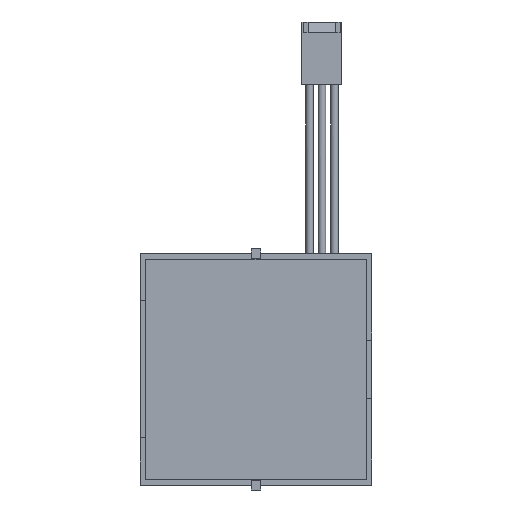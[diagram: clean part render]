
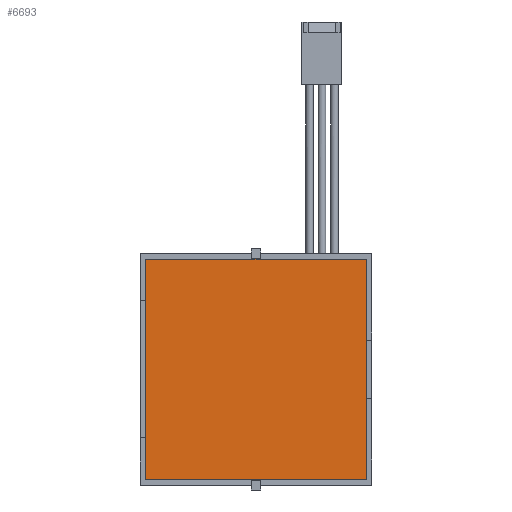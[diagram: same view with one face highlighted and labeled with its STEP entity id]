
A CAD part, front view. The second image highlights one B-rep face of the part: STEP entity #6693.
In plain terms, the highlighted planar face has unit normal (0, -1, 0).
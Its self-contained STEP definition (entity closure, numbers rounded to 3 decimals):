
#162 = LINE ( 'NONE', #3584, #5460 ) ;
#1276 = CARTESIAN_POINT ( 'NONE',  ( 22.5, -1.654, 22.5 ) ) ;
#1929 = ORIENTED_EDGE ( 'NONE', *, *, #8875, .F. ) ;
#2955 = VERTEX_POINT ( 'NONE', #16314 ) ;
#3078 = ORIENTED_EDGE ( 'NONE', *, *, #15837, .F. ) ;
#3112 = DIRECTION ( 'NONE',  ( 0., 0., 1. ) ) ;
#3557 = VECTOR ( 'NONE', #11029, 1000. ) ;
#3584 = CARTESIAN_POINT ( 'NONE',  ( 22.5, -1.654, -22.5 ) ) ;
#3923 = VECTOR ( 'NONE', #3112, 1000. ) ;
#4267 = LINE ( 'NONE', #6183, #13198 ) ;
#5460 = VECTOR ( 'NONE', #10123, 1000. ) ;
#6183 = CARTESIAN_POINT ( 'NONE',  ( 22.5, -1.654, -22.5 ) ) ;
#6693 = ADVANCED_FACE ( 'NONE', ( #10368 ), #12213, .T. ) ;
#6740 = EDGE_CURVE ( 'NONE', #18095, #16966, #4267, .T. ) ;
#7375 = LINE ( 'NONE', #1276, #3557 ) ;
#7633 = ORIENTED_EDGE ( 'NONE', *, *, #6740, .F. ) ;
#8875 = EDGE_CURVE ( 'NONE', #16966, #2955, #162, .T. ) ;
#9683 = EDGE_LOOP ( 'NONE', ( #7633, #16220, #3078, #1929 ) ) ;
#10123 = DIRECTION ( 'NONE',  ( -1., 0., 0. ) ) ;
#10368 = FACE_OUTER_BOUND ( 'NONE', #9683, .T. ) ;
#11029 = DIRECTION ( 'NONE',  ( 1., 0., 0. ) ) ;
#11073 = CARTESIAN_POINT ( 'NONE',  ( 22.5, -1.654, 22.5 ) ) ;
#12191 = CARTESIAN_POINT ( 'NONE',  ( -22.5, -1.654, 22.5 ) ) ;
#12213 = PLANE ( 'NONE',  #19477 ) ;
#12219 = VERTEX_POINT ( 'NONE', #12191 ) ;
#13017 = LINE ( 'NONE', #16319, #3923 ) ;
#13198 = VECTOR ( 'NONE', #17910, 1000. ) ;
#15837 = EDGE_CURVE ( 'NONE', #2955, #12219, #13017, .T. ) ;
#16220 = ORIENTED_EDGE ( 'NONE', *, *, #20304, .F. ) ;
#16314 = CARTESIAN_POINT ( 'NONE',  ( -22.5, -1.654, -22.5 ) ) ;
#16319 = CARTESIAN_POINT ( 'NONE',  ( -22.5, -1.654, -22.5 ) ) ;
#16966 = VERTEX_POINT ( 'NONE', #17248 ) ;
#17150 = DIRECTION ( 'NONE',  ( -1., 0., 0. ) ) ;
#17248 = CARTESIAN_POINT ( 'NONE',  ( 22.5, -1.654, -22.5 ) ) ;
#17910 = DIRECTION ( 'NONE',  ( 0., 0., -1. ) ) ;
#18095 = VERTEX_POINT ( 'NONE', #11073 ) ;
#19477 = AXIS2_PLACEMENT_3D ( 'NONE', #20569, #20262, #17150 ) ;
#20262 = DIRECTION ( 'NONE',  ( 0., -1., 0. ) ) ;
#20304 = EDGE_CURVE ( 'NONE', #12219, #18095, #7375, .T. ) ;
#20569 = CARTESIAN_POINT ( 'NONE',  ( 22.5, -1.654, -22.5 ) ) ;
